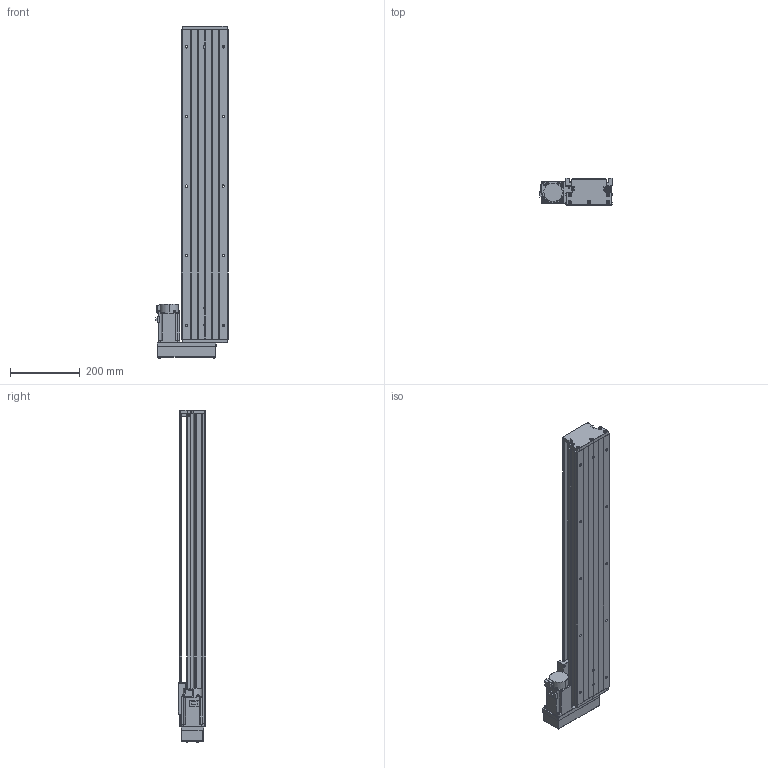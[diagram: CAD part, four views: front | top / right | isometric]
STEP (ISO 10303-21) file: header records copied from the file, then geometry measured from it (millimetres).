
FILE_DESCRIPTION (( 'STEP AP203' ), '1' );
FILE_NAME ('KTH130-750-BL-M40-C4.step', '2023-06-30T03:59:52', ( '微软用户' ), ( '微软中国' ), 'SwSTEP 2.0', 'SolidWorks 2020', '' );
FILE_SCHEMA (( 'CONFIG_CONTROL_DESIGN' ));
Length unit declared in the file: millimetre
Products named in the file (19): KTH130-750-BL-M40-C4; GBT70.1 M5℅16; す晦芛蹟隊 M3℅5; GBT 70.2-M3¡Á5_M3¡Á6; GBT 70.3-M3℅8; GTH14-001_750; CTHA60-017; HG-KN43J-S100; KTH130-002_KTH130-002; EE_SX911P_R; GBT 70.2-M4¡Á35_M4¡Á35; KTH130-004; CTHA60-016; GTH14-015-2_CTHA86-015-2; KTH130-005; GBT 70.1-M3℅5; GTH14-033; GB1155-6X6; GBT77-2000 M3×3
Assembly tree (53 placements, depth 2):
  KTH130-750-BL-M40-C4
    GTH14-001_750
    KTH130-002_KTH130-002
    KTH130-004
    KTH130-005
    GB1155-6X6  x2
    GBT70.1 M5℅16  x10
    GBT 70.2-M3¡Á5_M3¡Á6  x4
    CTHA60-017  x3
    EE_SX911P_R  x3
    CTHA60-016  x2
    GBT 70.1-M3℅5  x6
    GBT77-2000 M3×3  x6
    す晦芛蹟隊 M3℅5  x2
    GBT 70.3-M3℅8  x4
    HG-KN43J-S100
    GBT 70.2-M4¡Á35_M4¡Á35  x4
    GTH14-015-2_CTHA86-015-2
    GTH14-033
Bounding box: 209.3 x 78 x 954.2 mm (x, y, z)
Volume: 5410909.6 mm3; surface area: 874412.7 mm2
Topology: 56 solids, 56 shells, 2223 faces, 5366 edges, 3342 vertices
Faces by surface type: plane 1197, cylinder 612, cone 290, torus 100, sphere 24
Entity records: 40558 total; most frequent: CARTESIAN_POINT 8634, DIRECTION 6039, ORIENTED_EDGE 5932, EDGE_CURVE 2966, AXIS2_PLACEMENT_3D 2078, VERTEX_POINT 1895, VECTOR 1883, LINE 1883
